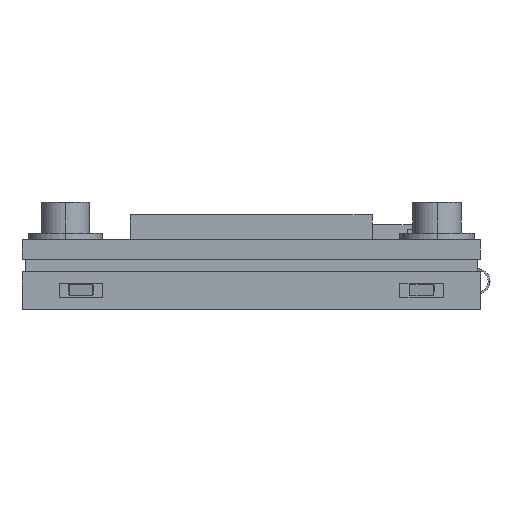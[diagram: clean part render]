
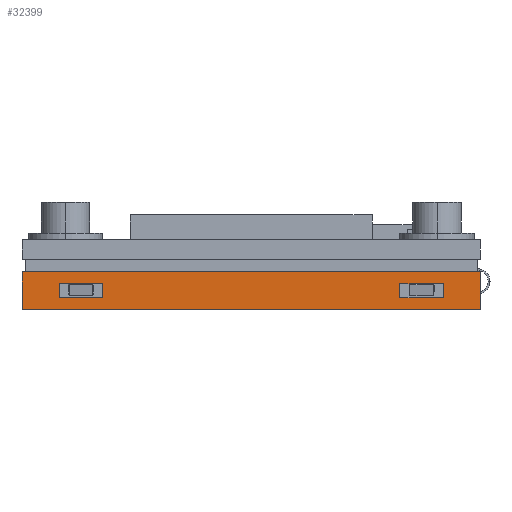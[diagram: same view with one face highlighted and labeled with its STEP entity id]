
A CAD part, left-side view. The second image highlights one B-rep face of the part: STEP entity #32399.
In plain terms, the highlighted planar face has unit normal (-1, 0, 0) as drawn and (1, 0, 0) by its records, which use the part's own axes.
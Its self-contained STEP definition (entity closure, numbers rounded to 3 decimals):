
#531 = VECTOR ( 'NONE', #26956, 1000. ) ;
#652 = CARTESIAN_POINT ( 'NONE',  ( 52.75, -15.5, 2.1 ) ) ;
#945 = LINE ( 'NONE', #6800, #2632 ) ;
#1472 = VECTOR ( 'NONE', #12043, 1000. ) ;
#1474 = VECTOR ( 'NONE', #8778, 1000. ) ;
#2057 = VECTOR ( 'NONE', #30740, 1000. ) ;
#2182 = ORIENTED_EDGE ( 'NONE', *, *, #19086, .T. ) ;
#2576 = EDGE_CURVE ( 'NONE', #31207, #15387, #945, .T. ) ;
#2632 = VECTOR ( 'NONE', #18714, 1000. ) ;
#3086 = ORIENTED_EDGE ( 'NONE', *, *, #8525, .F. ) ;
#3126 = DIRECTION ( 'NONE',  ( 0., 0., -1. ) ) ;
#4839 = CARTESIAN_POINT ( 'NONE',  ( 52.75, -15.5, 0.95 ) ) ;
#5306 = LINE ( 'NONE', #21085, #1474 ) ;
#6054 = CARTESIAN_POINT ( 'NONE',  ( 52.75, -12., 2.1 ) ) ;
#6117 = LINE ( 'NONE', #11950, #531 ) ;
#6208 = ORIENTED_EDGE ( 'NONE', *, *, #15727, .F. ) ;
#6242 = VECTOR ( 'NONE', #27049, 1000. ) ;
#6800 = CARTESIAN_POINT ( 'NONE',  ( 52.75, 18.5, 3.05 ) ) ;
#6924 = VECTOR ( 'NONE', #37402, 1000. ) ;
#7195 = EDGE_CURVE ( 'NONE', #15387, #30286, #5306, .T. ) ;
#7379 = VERTEX_POINT ( 'NONE', #18744 ) ;
#7514 = CARTESIAN_POINT ( 'NONE',  ( 52.75, 15.5, 2.1 ) ) ;
#8525 = EDGE_CURVE ( 'NONE', #37681, #19681, #16934, .T. ) ;
#8595 = LINE ( 'NONE', #20901, #11318 ) ;
#8778 = DIRECTION ( 'NONE',  ( 0., -1., 0. ) ) ;
#8909 = CARTESIAN_POINT ( 'NONE',  ( 52.75, -15.5, 2.1 ) ) ;
#9477 = CARTESIAN_POINT ( 'NONE',  ( 52.75, -15.5, 2.1 ) ) ;
#10187 = VECTOR ( 'NONE', #25771, 1000. ) ;
#10257 = LINE ( 'NONE', #7514, #2057 ) ;
#11318 = VECTOR ( 'NONE', #3126, 1000. ) ;
#11641 = CARTESIAN_POINT ( 'NONE',  ( 52.75, 18.5, 0. ) ) ;
#11730 = VERTEX_POINT ( 'NONE', #32577 ) ;
#11950 = CARTESIAN_POINT ( 'NONE',  ( 52.75, -18.5, 3.05 ) ) ;
#12011 = LINE ( 'NONE', #8909, #28718 ) ;
#12043 = DIRECTION ( 'NONE',  ( 0., -1., 0. ) ) ;
#12329 = CARTESIAN_POINT ( 'NONE',  ( 52.75, 0., 3.05 ) ) ;
#12833 = CARTESIAN_POINT ( 'NONE',  ( 52.75, -12., 0.95 ) ) ;
#13141 = DIRECTION ( 'NONE',  ( 0., 0., -1. ) ) ;
#13347 = DIRECTION ( 'NONE',  ( 1., 0., 0. ) ) ;
#14654 = ORIENTED_EDGE ( 'NONE', *, *, #32988, .F. ) ;
#14748 = EDGE_LOOP ( 'NONE', ( #18055, #6208, #29829, #17375 ) ) ;
#15005 = EDGE_CURVE ( 'NONE', #19681, #26998, #15618, .T. ) ;
#15183 = ORIENTED_EDGE ( 'NONE', *, *, #7195, .F. ) ;
#15380 = LINE ( 'NONE', #9477, #1472 ) ;
#15387 = VERTEX_POINT ( 'NONE', #11641 ) ;
#15618 = LINE ( 'NONE', #30828, #25265 ) ;
#15727 = EDGE_CURVE ( 'NONE', #11730, #36938, #29083, .T. ) ;
#16379 = AXIS2_PLACEMENT_3D ( 'NONE', #34638, #13347, #13141 ) ;
#16671 = CARTESIAN_POINT ( 'NONE',  ( 52.75, 18.5, 3.05 ) ) ;
#16934 = LINE ( 'NONE', #4839, #6924 ) ;
#17260 = EDGE_CURVE ( 'NONE', #36938, #33906, #10257, .T. ) ;
#17375 = ORIENTED_EDGE ( 'NONE', *, *, #31732, .F. ) ;
#17656 = DIRECTION ( 'NONE',  ( 0., 0., 1. ) ) ;
#17913 = DIRECTION ( 'NONE',  ( 0., 0., -1. ) ) ;
#18055 = ORIENTED_EDGE ( 'NONE', *, *, #17260, .F. ) ;
#18511 = ORIENTED_EDGE ( 'NONE', *, *, #19783, .F. ) ;
#18714 = DIRECTION ( 'NONE',  ( 0., 0., -1. ) ) ;
#18730 = EDGE_LOOP ( 'NONE', ( #14654, #24512, #3086, #18511 ) ) ;
#18744 = CARTESIAN_POINT ( 'NONE',  ( 52.75, -18.5, 3.05 ) ) ;
#19055 = VERTEX_POINT ( 'NONE', #652 ) ;
#19086 = EDGE_CURVE ( 'NONE', #31207, #7379, #29908, .T. ) ;
#19616 = PLANE ( 'NONE',  #16379 ) ;
#19681 = VERTEX_POINT ( 'NONE', #12833 ) ;
#19689 = ORIENTED_EDGE ( 'NONE', *, *, #29441, .T. ) ;
#19783 = EDGE_CURVE ( 'NONE', #19055, #37681, #12011, .T. ) ;
#20901 = CARTESIAN_POINT ( 'NONE',  ( 52.75, 12., 2.1 ) ) ;
#20916 = VERTEX_POINT ( 'NONE', #22488 ) ;
#21085 = CARTESIAN_POINT ( 'NONE',  ( 52.75, 0., 0. ) ) ;
#22464 = ORIENTED_EDGE ( 'NONE', *, *, #2576, .F. ) ;
#22488 = CARTESIAN_POINT ( 'NONE',  ( 52.75, 12., 0.95 ) ) ;
#23050 = LINE ( 'NONE', #32033, #6242 ) ;
#24247 = DIRECTION ( 'NONE',  ( 0., -1., 0. ) ) ;
#24512 = ORIENTED_EDGE ( 'NONE', *, *, #15005, .F. ) ;
#24850 = FACE_BOUND ( 'NONE', #14748, .T. ) ;
#25265 = VECTOR ( 'NONE', #17656, 1000. ) ;
#25771 = DIRECTION ( 'NONE',  ( 0., 0., 1. ) ) ;
#26621 = CARTESIAN_POINT ( 'NONE',  ( 52.75, 12., 2.1 ) ) ;
#26956 = DIRECTION ( 'NONE',  ( 0., 0., -1. ) ) ;
#26998 = VERTEX_POINT ( 'NONE', #6054 ) ;
#27049 = DIRECTION ( 'NONE',  ( 0., 1., 0. ) ) ;
#28019 = EDGE_LOOP ( 'NONE', ( #15183, #22464, #2182, #19689 ) ) ;
#28430 = CARTESIAN_POINT ( 'NONE',  ( 52.75, -15.5, 0.95 ) ) ;
#28534 = FACE_OUTER_BOUND ( 'NONE', #28019, .T. ) ;
#28718 = VECTOR ( 'NONE', #17913, 1000. ) ;
#29083 = LINE ( 'NONE', #37312, #10187 ) ;
#29441 = EDGE_CURVE ( 'NONE', #7379, #30286, #6117, .T. ) ;
#29829 = ORIENTED_EDGE ( 'NONE', *, *, #30747, .F. ) ;
#29908 = LINE ( 'NONE', #12329, #34948 ) ;
#30286 = VERTEX_POINT ( 'NONE', #37041 ) ;
#30740 = DIRECTION ( 'NONE',  ( 0., -1., 0. ) ) ;
#30747 = EDGE_CURVE ( 'NONE', #20916, #11730, #23050, .T. ) ;
#30828 = CARTESIAN_POINT ( 'NONE',  ( 52.75, -12., 2.1 ) ) ;
#31207 = VERTEX_POINT ( 'NONE', #16671 ) ;
#31700 = FACE_BOUND ( 'NONE', #18730, .T. ) ;
#31732 = EDGE_CURVE ( 'NONE', #33906, #20916, #8595, .T. ) ;
#32033 = CARTESIAN_POINT ( 'NONE',  ( 52.75, 15.5, 0.95 ) ) ;
#32399 = ADVANCED_FACE ( 'NONE', ( #31700, #24850, #28534 ), #19616, .T. ) ;
#32577 = CARTESIAN_POINT ( 'NONE',  ( 52.75, 15.5, 0.95 ) ) ;
#32988 = EDGE_CURVE ( 'NONE', #26998, #19055, #15380, .T. ) ;
#33906 = VERTEX_POINT ( 'NONE', #26621 ) ;
#34578 = CARTESIAN_POINT ( 'NONE',  ( 52.75, 15.5, 2.1 ) ) ;
#34638 = CARTESIAN_POINT ( 'NONE',  ( 52.75, 0., 3.05 ) ) ;
#34948 = VECTOR ( 'NONE', #24247, 1000. ) ;
#36938 = VERTEX_POINT ( 'NONE', #34578 ) ;
#37041 = CARTESIAN_POINT ( 'NONE',  ( 52.75, -18.5, 0. ) ) ;
#37312 = CARTESIAN_POINT ( 'NONE',  ( 52.75, 15.5, 2.1 ) ) ;
#37402 = DIRECTION ( 'NONE',  ( 0., 1., 0. ) ) ;
#37681 = VERTEX_POINT ( 'NONE', #28430 ) ;
